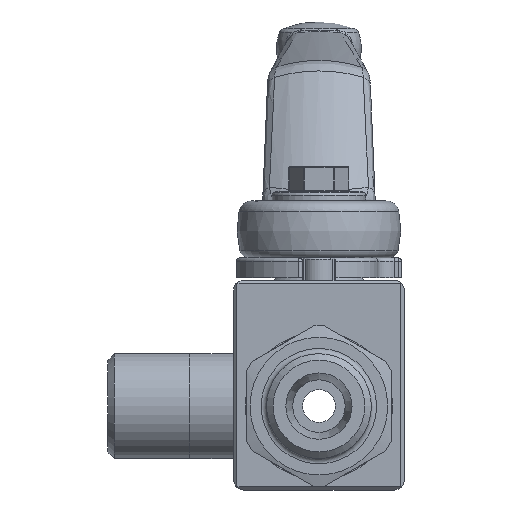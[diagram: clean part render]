
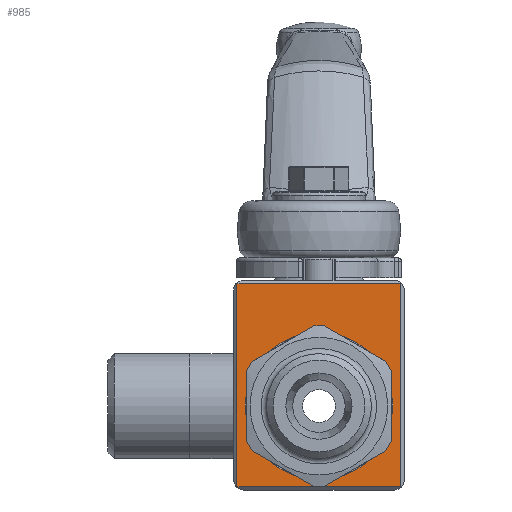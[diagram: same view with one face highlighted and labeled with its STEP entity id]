
A CAD part, front view. The second image highlights one B-rep face of the part: STEP entity #985.
In plain terms, the highlighted planar face has unit normal (0, -1, 0).
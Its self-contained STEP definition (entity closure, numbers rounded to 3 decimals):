
#985 = ADVANCED_FACE( '', ( #2078, #2079 ), #2080, .F. );
#2078 = FACE_BOUND( '', #4003, .T. );
#2079 = FACE_OUTER_BOUND( '', #4004, .T. );
#2080 = PLANE( '', #4005 );
#4003 = EDGE_LOOP( '', ( #6690 ) );
#4004 = EDGE_LOOP( '', ( #6691, #6692, #6693, #6694 ) );
#4005 = AXIS2_PLACEMENT_3D( '', #6695, #6696, #6697 );
#6690 = ORIENTED_EDGE( '', *, *, #9099, .T. );
#6691 = ORIENTED_EDGE( '', *, *, #9100, .T. );
#6692 = ORIENTED_EDGE( '', *, *, #8870, .T. );
#6693 = ORIENTED_EDGE( '', *, *, #9101, .T. );
#6694 = ORIENTED_EDGE( '', *, *, #8287, .T. );
#6695 = CARTESIAN_POINT( '', ( -13., -18.1, 19.2 ) );
#6696 = DIRECTION( '', ( 0., 1., 0. ) );
#6697 = DIRECTION( '', ( 0., 0., 1. ) );
#8287 = EDGE_CURVE( '', #9556, #9557, #9558, .T. );
#8870 = EDGE_CURVE( '', #10515, #10513, #10516, .T. );
#9099 = EDGE_CURVE( '', #10826, #10826, #10827, .T. );
#9100 = EDGE_CURVE( '', #9557, #10515, #10828, .T. );
#9101 = EDGE_CURVE( '', #10513, #9556, #10829, .T. );
#9556 = VERTEX_POINT( '', #11370 );
#9557 = VERTEX_POINT( '', #11371 );
#9558 = LINE( '', #11372, #11373 );
#10513 = VERTEX_POINT( '', #13251 );
#10515 = VERTEX_POINT( '', #13254 );
#10516 = LINE( '', #13255, #13256 );
#10826 = VERTEX_POINT( '', #13806 );
#10827 = CIRCLE( '', #13807, 11.25 );
#10828 = LINE( '', #13808, #13809 );
#10829 = LINE( '', #13810, #13811 );
#11370 = CARTESIAN_POINT( '', ( 12.5, -18.1, 18.7 ) );
#11371 = CARTESIAN_POINT( '', ( -12.5, -18.1, 18.7 ) );
#11372 = CARTESIAN_POINT( '', ( -13., -18.1, 18.7 ) );
#11373 = VECTOR( '', #14732, 1000. );
#13251 = CARTESIAN_POINT( '', ( 12.5, -18.1, -12.3 ) );
#13254 = CARTESIAN_POINT( '', ( -12.5, -18.1, -12.3 ) );
#13255 = CARTESIAN_POINT( '', ( -13., -18.1, -12.3 ) );
#13256 = VECTOR( '', #15583, 1000. );
#13806 = CARTESIAN_POINT( '', ( 0., -18.1, -11.25 ) );
#13807 = AXIS2_PLACEMENT_3D( '', #15873, #15874, #15875 );
#13808 = CARTESIAN_POINT( '', ( -12.5, -18.1, 19.2 ) );
#13809 = VECTOR( '', #15876, 1000. );
#13810 = CARTESIAN_POINT( '', ( 12.5, -18.1, 19.2 ) );
#13811 = VECTOR( '', #15877, 1000. );
#14732 = DIRECTION( '', ( -1., 0., 0. ) );
#15583 = DIRECTION( '', ( 1., 0., 0. ) );
#15873 = CARTESIAN_POINT( '', ( 0., -18.1, 0. ) );
#15874 = DIRECTION( '', ( 0., 1., 0. ) );
#15875 = DIRECTION( '', ( 0., 0., -1. ) );
#15876 = DIRECTION( '', ( 0., 0., -1. ) );
#15877 = DIRECTION( '', ( 0., 0., 1. ) );
